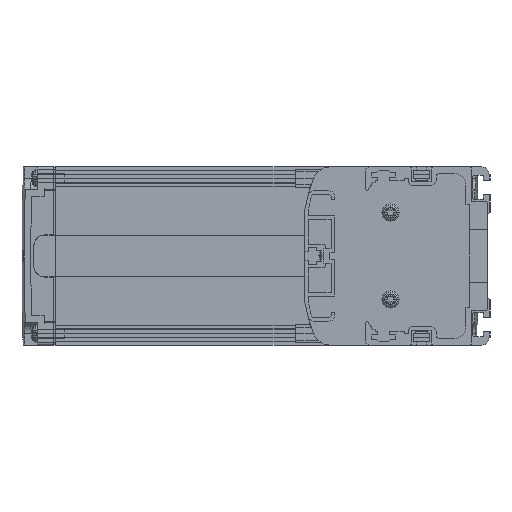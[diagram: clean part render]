
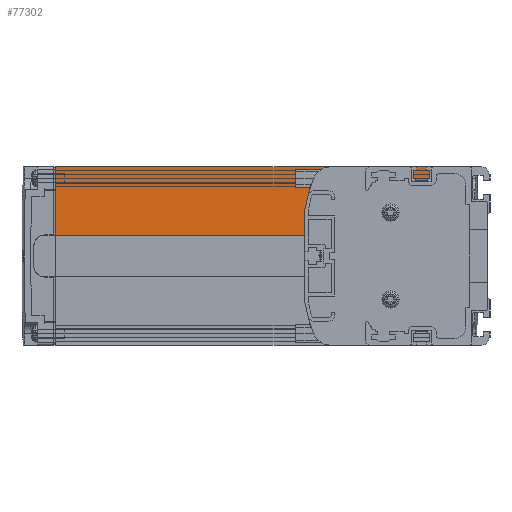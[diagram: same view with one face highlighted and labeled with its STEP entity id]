
A CAD part, left-side view. The second image highlights one B-rep face of the part: STEP entity #77302.
In plain terms, the highlighted planar face has unit normal (-1, 0, 0).
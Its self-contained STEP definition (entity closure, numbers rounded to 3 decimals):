
#75243=DIRECTION('',(0.,-1.,0.));
#75244=VECTOR('',#75243,51.);
#75245=CARTESIAN_POINT('',(3.,71.,27.));
#75246=LINE('',#75245,#75244);
#75892=DIRECTION('',(0.,-1.,0.));
#75893=VECTOR('',#75892,170.);
#75894=CARTESIAN_POINT('',(3.,190.,39.));
#75895=LINE('',#75894,#75893);
#75910=DIRECTION('',(0.,0.,-1.));
#75911=VECTOR('',#75910,29.9);
#75912=CARTESIAN_POINT('',(3.,190.,39.));
#75913=LINE('',#75912,#75911);
#75914=DIRECTION('',(0.,0.,1.));
#75915=VECTOR('',#75914,12.);
#75916=CARTESIAN_POINT('',(3.,20.,27.));
#75917=LINE('',#75916,#75915);
#75918=DIRECTION('',(0.,0.,1.));
#75919=VECTOR('',#75918,17.9);
#75920=CARTESIAN_POINT('',(3.,71.,9.1));
#75921=LINE('',#75920,#75919);
#76028=DIRECTION('',(0.,-1.,0.));
#76029=VECTOR('',#76028,119.);
#76030=CARTESIAN_POINT('',(3.,190.,9.1));
#76031=LINE('',#76030,#76029);
#76115=CARTESIAN_POINT('',(3.,20.,27.));
#76117=VERTEX_POINT('',#76115);
#76209=CARTESIAN_POINT('',(3.,20.,39.));
#76210=VERTEX_POINT('',#76209);
#76283=CARTESIAN_POINT('',(3.,190.,39.));
#76284=VERTEX_POINT('',#76283);
#76285=CARTESIAN_POINT('',(3.,190.,9.1));
#76286=VERTEX_POINT('',#76285);
#76347=CARTESIAN_POINT('',(3.,71.,27.));
#76348=VERTEX_POINT('',#76347);
#76349=CARTESIAN_POINT('',(3.,71.,9.1));
#76350=VERTEX_POINT('',#76349);
#77287=CARTESIAN_POINT('',(3.,105.,24.05));
#77288=DIRECTION('',(1.,0.,0.));
#77289=DIRECTION('',(0.,0.,1.));
#77290=AXIS2_PLACEMENT_3D('',#77287,#77288,#77289);
#77291=PLANE('',#77290);
#77292=ORIENTED_EDGE('',*,*,#76533,.F.);
#77294=ORIENTED_EDGE('',*,*,#77293,.F.);
#77296=ORIENTED_EDGE('',*,*,#77295,.F.);
#77297=ORIENTED_EDGE('',*,*,#76861,.F.);
#77298=ORIENTED_EDGE('',*,*,#77275,.T.);
#77299=ORIENTED_EDGE('',*,*,#76402,.F.);
#77300=EDGE_LOOP('',(#77292,#77294,#77296,#77297,#77298,#77299));
#77301=FACE_OUTER_BOUND('',#77300,.F.);
#77302=ADVANCED_FACE('',(#77301),#77291,.F.);
#76402=EDGE_CURVE('',#76117,#76210,#75917,.T.);
#76533=EDGE_CURVE('',#76348,#76117,#75246,.T.);
#76861=EDGE_CURVE('',#76284,#76286,#75913,.T.);
#77275=EDGE_CURVE('',#76284,#76210,#75895,.T.);
#77293=EDGE_CURVE('',#76350,#76348,#75921,.T.);
#77295=EDGE_CURVE('',#76286,#76350,#76031,.T.);
